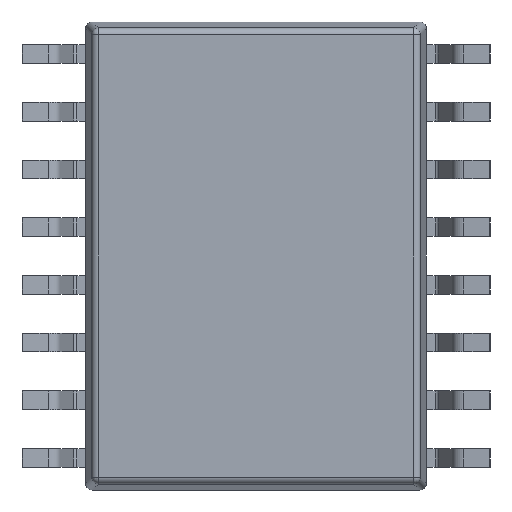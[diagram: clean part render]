
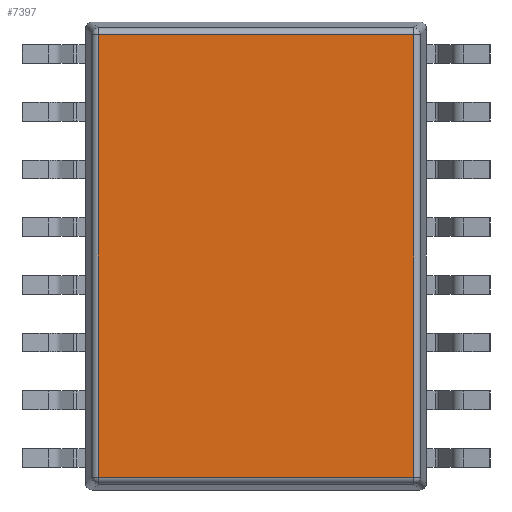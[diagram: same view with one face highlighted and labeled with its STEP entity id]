
A CAD part, front view. The second image highlights one B-rep face of the part: STEP entity #7397.
In plain terms, the highlighted planar face has unit normal (0, -1, 0).
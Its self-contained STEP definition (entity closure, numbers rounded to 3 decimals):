
#723 = VERTEX_POINT ( 'NONE', #888 ) ;
#872 = AXIS2_PLACEMENT_3D ( 'NONE', #3675, #2448, #7005 ) ;
#888 = CARTESIAN_POINT ( 'NONE',  ( 3.47, 0.3, -4.87 ) ) ;
#1019 = CARTESIAN_POINT ( 'NONE',  ( -3.47, 0.3, -4.87 ) ) ;
#1135 = VECTOR ( 'NONE', #6161, 1000. ) ;
#2283 = EDGE_CURVE ( 'NONE', #6384, #723, #4318, .T. ) ;
#2350 = CARTESIAN_POINT ( 'NONE',  ( -3.47, 0.3, 4.87 ) ) ;
#2448 = DIRECTION ( 'NONE',  ( 0., 1., 0. ) ) ;
#3112 = FACE_OUTER_BOUND ( 'NONE', #3945, .T. ) ;
#3430 = CARTESIAN_POINT ( 'NONE',  ( 3.47, 0.3, 5. ) ) ;
#3549 = VERTEX_POINT ( 'NONE', #8157 ) ;
#3668 = CARTESIAN_POINT ( 'NONE',  ( 3.6, 0.3, -4.87 ) ) ;
#3675 = CARTESIAN_POINT ( 'NONE',  ( 0., 0.3, 0. ) ) ;
#3772 = CARTESIAN_POINT ( 'NONE',  ( -3.47, 0.3, -5. ) ) ;
#3915 = LINE ( 'NONE', #5900, #4704 ) ;
#3924 = ORIENTED_EDGE ( 'NONE', *, *, #7033, .T. ) ;
#3945 = EDGE_LOOP ( 'NONE', ( #6319, #7377, #3924, #5410 ) ) ;
#4318 = LINE ( 'NONE', #3668, #4672 ) ;
#4366 = PLANE ( 'NONE',  #872 ) ;
#4672 = VECTOR ( 'NONE', #6307, 1000. ) ;
#4704 = VECTOR ( 'NONE', #8529, 1000. ) ;
#4862 = VERTEX_POINT ( 'NONE', #2350 ) ;
#5410 = ORIENTED_EDGE ( 'NONE', *, *, #2283, .T. ) ;
#5461 = EDGE_CURVE ( 'NONE', #723, #3549, #8050, .T. ) ;
#5900 = CARTESIAN_POINT ( 'NONE',  ( -3.6, 0.3, 4.87 ) ) ;
#6161 = DIRECTION ( 'NONE',  ( 0., 0., 1. ) ) ;
#6307 = DIRECTION ( 'NONE',  ( 1., 0., 0. ) ) ;
#6319 = ORIENTED_EDGE ( 'NONE', *, *, #5461, .T. ) ;
#6384 = VERTEX_POINT ( 'NONE', #1019 ) ;
#6411 = DIRECTION ( 'NONE',  ( 0., 0., -1. ) ) ;
#6771 = EDGE_CURVE ( 'NONE', #3549, #4862, #3915, .T. ) ;
#7005 = DIRECTION ( 'NONE',  ( 0., 0., 1. ) ) ;
#7033 = EDGE_CURVE ( 'NONE', #4862, #6384, #7620, .T. ) ;
#7306 = VECTOR ( 'NONE', #6411, 1000. ) ;
#7377 = ORIENTED_EDGE ( 'NONE', *, *, #6771, .T. ) ;
#7397 = ADVANCED_FACE ( 'NONE', ( #3112 ), #4366, .F. ) ;
#7620 = LINE ( 'NONE', #3772, #7306 ) ;
#8050 = LINE ( 'NONE', #3430, #1135 ) ;
#8157 = CARTESIAN_POINT ( 'NONE',  ( 3.47, 0.3, 4.87 ) ) ;
#8529 = DIRECTION ( 'NONE',  ( -1., 0., 0. ) ) ;
